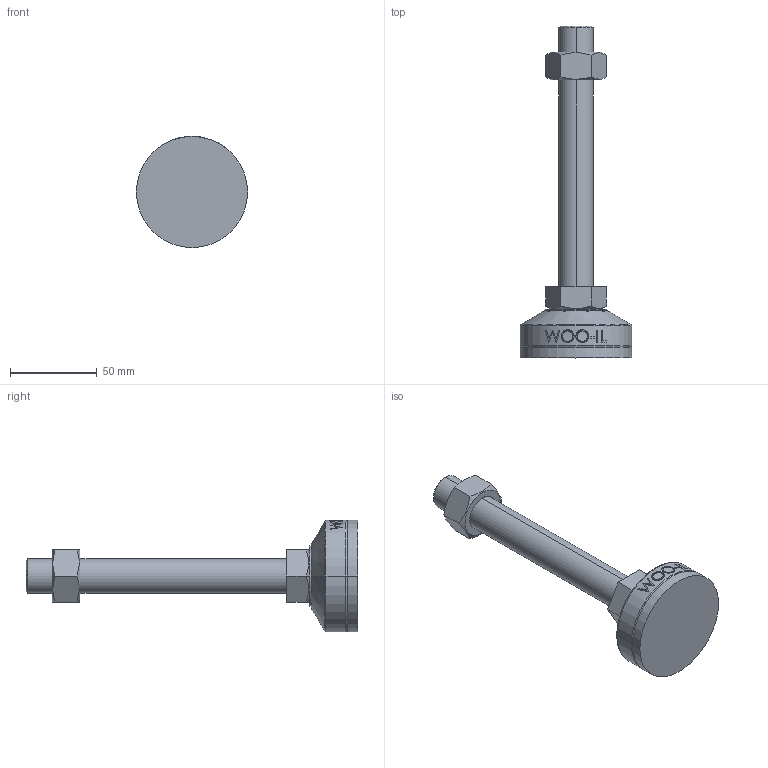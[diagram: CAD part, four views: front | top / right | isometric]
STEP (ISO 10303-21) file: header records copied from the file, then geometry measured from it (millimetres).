
FILE_DESCRIPTION (( 'STEP AP214' ), '1' );
FILE_NAME ('MFZR64-M20-150.step', '2021-03-29T06:56:52', ( '' ), ( '' ), 'SwSTEP 2.0', 'SolidWorks 2019', '' );
FILE_SCHEMA (( 'AUTOMOTIVE_DESIGN' ));
Length unit declared in the file: millimetre
Products named in the file (2): MFZR64-M20-150
Bounding box: 64 x 191 x 64 mm (x, y, z)
Volume: 142868.8 mm3; surface area: 26689.7 mm2
Topology: 3 solids, 3 shells, 102 faces, 239 edges, 154 vertices
Faces by surface type: plane 48, cylinder 18, bspline 16, cone 14, torus 6
Entity records: 4460 total; most frequent: CARTESIAN_POINT 2185, ORIENTED_EDGE 478, DIRECTION 415, EDGE_CURVE 239, AXIS2_PLACEMENT_3D 158, VERTEX_POINT 154, EDGE_LOOP 115, FACE_OUTER_BOUND 102
